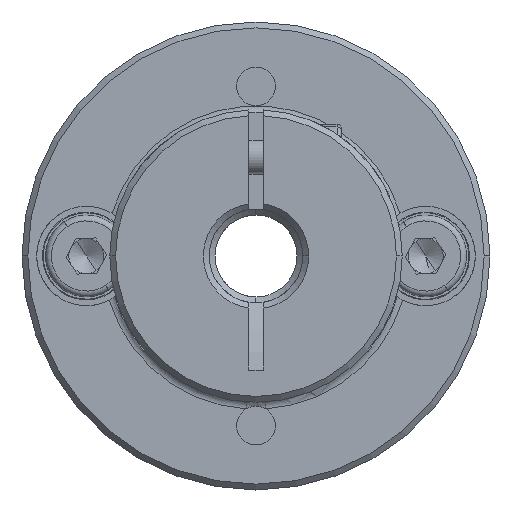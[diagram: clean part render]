
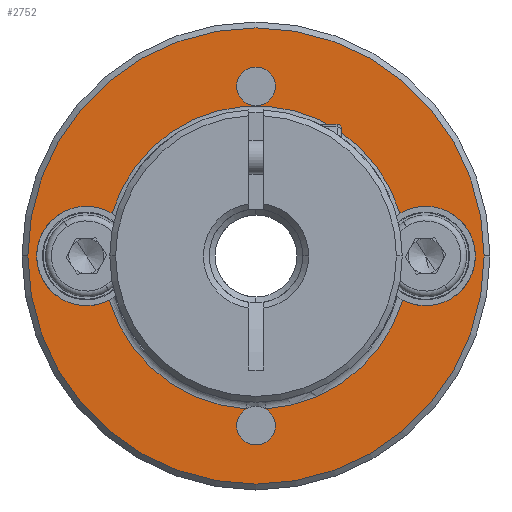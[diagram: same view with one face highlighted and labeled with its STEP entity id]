
A CAD part, front view. The second image highlights one B-rep face of the part: STEP entity #2752.
In plain terms, the highlighted planar face has unit normal (0, -1, 0).
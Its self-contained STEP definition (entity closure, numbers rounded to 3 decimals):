
#238 = VERTEX_POINT ( 'NONE', #2771 ) ;
#265 = ORIENTED_EDGE ( 'NONE', *, *, #12442, .T. ) ;
#481 = DIRECTION ( 'NONE',  ( 1., 0., 0. ) ) ;
#505 = AXIS2_PLACEMENT_3D ( 'NONE', #8835, #2955, #3036 ) ;
#579 = CARTESIAN_POINT ( 'NONE',  ( -12.005, -13.63, 40. ) ) ;
#703 = CIRCLE ( 'NONE', #5637, 13.1 ) ;
#793 = DIRECTION ( 'NONE',  ( 0., -1., 0. ) ) ;
#816 = VERTEX_POINT ( 'NONE', #5101 ) ;
#856 = EDGE_CURVE ( 'NONE', #876, #8610, #8306, .T. ) ;
#876 = VERTEX_POINT ( 'NONE', #3220 ) ;
#923 = DIRECTION ( 'NONE',  ( 0., 1., 0. ) ) ;
#985 = CIRCLE ( 'NONE', #4708, 4.25 ) ;
#1025 = ORIENTED_EDGE ( 'NONE', *, *, #9247, .T. ) ;
#1393 = CARTESIAN_POINT ( 'NONE',  ( -12.005, -13.63, 25.5 ) ) ;
#1468 = ORIENTED_EDGE ( 'NONE', *, *, #3941, .T. ) ;
#1499 = ORIENTED_EDGE ( 'NONE', *, *, #2692, .T. ) ;
#1505 = DIRECTION ( 'NONE',  ( 1., 0., 0. ) ) ;
#1508 = DIRECTION ( 'NONE',  ( 1., 0., 0. ) ) ;
#1638 = CARTESIAN_POINT ( 'NONE',  ( -12.005, -13.63, 40. ) ) ;
#1679 = EDGE_LOOP ( 'NONE', ( #8481, #2109 ) ) ;
#1762 = CIRCLE ( 'NONE', #505, 4.25 ) ;
#1809 = CIRCLE ( 'NONE', #2858, 1.65 ) ;
#1979 = CIRCLE ( 'NONE', #2631, 12.829 ) ;
#2109 = ORIENTED_EDGE ( 'NONE', *, *, #3615, .T. ) ;
#2121 = ORIENTED_EDGE ( 'NONE', *, *, #4082, .T. ) ;
#2200 = VERTEX_POINT ( 'NONE', #6599 ) ;
#2363 = DIRECTION ( 'NONE',  ( 1., 0., 0. ) ) ;
#2400 = CARTESIAN_POINT ( 'NONE',  ( -12.005, -13.63, 40. ) ) ;
#2461 = DIRECTION ( 'NONE',  ( 1., 0., 0. ) ) ;
#2597 = DIRECTION ( 'NONE',  ( 1., 0., 0. ) ) ;
#2631 = AXIS2_PLACEMENT_3D ( 'NONE', #2400, #9152, #2363 ) ;
#2672 = CARTESIAN_POINT ( 'NONE',  ( -12.005, -13.63, 40. ) ) ;
#2692 = EDGE_CURVE ( 'NONE', #11700, #10376, #3026, .T. ) ;
#2710 = AXIS2_PLACEMENT_3D ( 'NONE', #7407, #3282, #10276 ) ;
#2719 = VERTEX_POINT ( 'NONE', #12407 ) ;
#2752 = ADVANCED_FACE ( 'NONE', ( #8414, #3171, #2873 ), #7517, .T. ) ;
#2771 = CARTESIAN_POINT ( 'NONE',  ( -12.834, -13.63, 26.926 ) ) ;
#2858 = AXIS2_PLACEMENT_3D ( 'NONE', #6650, #12594, #2597 ) ;
#2873 = FACE_BOUND ( 'NONE', #1679, .T. ) ;
#2950 = DIRECTION ( 'NONE',  ( 1., 0., 0. ) ) ;
#2955 = DIRECTION ( 'NONE',  ( 0., 1., 0. ) ) ;
#3026 = CIRCLE ( 'NONE', #5541, 19.5 ) ;
#3036 = DIRECTION ( 'NONE',  ( 1., 0., 0. ) ) ;
#3100 = ORIENTED_EDGE ( 'NONE', *, *, #4988, .T. ) ;
#3171 = FACE_BOUND ( 'NONE', #7349, .T. ) ;
#3220 = CARTESIAN_POINT ( 'NONE',  ( -30.755, -13.63, 40. ) ) ;
#3253 = DIRECTION ( 'NONE',  ( 1., 0., 0. ) ) ;
#3282 = DIRECTION ( 'NONE',  ( 0., 1., 0. ) ) ;
#3550 = AXIS2_PLACEMENT_3D ( 'NONE', #5915, #5818, #10790 ) ;
#3615 = EDGE_CURVE ( 'NONE', #11668, #12014, #10865, .T. ) ;
#3876 = CARTESIAN_POINT ( 'NONE',  ( -13.655, -13.63, 54.5 ) ) ;
#3941 = EDGE_CURVE ( 'NONE', #238, #12657, #4542, .T. ) ;
#3988 = EDGE_CURVE ( 'NONE', #11701, #6217, #985, .T. ) ;
#4082 = EDGE_CURVE ( 'NONE', #2719, #6533, #703, .T. ) ;
#4104 = AXIS2_PLACEMENT_3D ( 'NONE', #12522, #7822, #2950 ) ;
#4319 = CARTESIAN_POINT ( 'NONE',  ( 2.495, -13.63, 40. ) ) ;
#4542 = CIRCLE ( 'NONE', #2710, 13.1 ) ;
#4598 = ORIENTED_EDGE ( 'NONE', *, *, #3988, .T. ) ;
#4708 = AXIS2_PLACEMENT_3D ( 'NONE', #4319, #10321, #2461 ) ;
#4988 = EDGE_CURVE ( 'NONE', #6217, #2719, #5148, .T. ) ;
#5019 = CARTESIAN_POINT ( 'NONE',  ( -24.55, -13.63, 36.226 ) ) ;
#5101 = CARTESIAN_POINT ( 'NONE',  ( -10.355, -13.63, 25.5 ) ) ;
#5127 = CARTESIAN_POINT ( 'NONE',  ( -11.175, -13.63, 26.926 ) ) ;
#5148 = CIRCLE ( 'NONE', #7933, 4.25 ) ;
#5541 = AXIS2_PLACEMENT_3D ( 'NONE', #2672, #8483, #12549 ) ;
#5563 = ORIENTED_EDGE ( 'NONE', *, *, #856, .T. ) ;
#5637 = AXIS2_PLACEMENT_3D ( 'NONE', #1638, #5675, #1505 ) ;
#5675 = DIRECTION ( 'NONE',  ( 0., 1., 0. ) ) ;
#5818 = DIRECTION ( 'NONE',  ( 0., 1., 0. ) ) ;
#5915 = CARTESIAN_POINT ( 'NONE',  ( -12.005, -13.63, 25.5 ) ) ;
#5953 = CARTESIAN_POINT ( 'NONE',  ( 0.298, -13.63, 43.638 ) ) ;
#6005 = ORIENTED_EDGE ( 'NONE', *, *, #7409, .T. ) ;
#6018 = CARTESIAN_POINT ( 'NONE',  ( -26.505, -13.63, 40. ) ) ;
#6217 = VERTEX_POINT ( 'NONE', #12446 ) ;
#6425 = DIRECTION ( 'NONE',  ( 0., 1., 0. ) ) ;
#6533 = VERTEX_POINT ( 'NONE', #5127 ) ;
#6599 = CARTESIAN_POINT ( 'NONE',  ( -13.655, -13.63, 25.5 ) ) ;
#6625 = AXIS2_PLACEMENT_3D ( 'NONE', #579, #793, #12660 ) ;
#6650 = CARTESIAN_POINT ( 'NONE',  ( -12.005, -13.63, 54.5 ) ) ;
#6985 = EDGE_LOOP ( 'NONE', ( #1499, #11882 ) ) ;
#7009 = DIRECTION ( 'NONE',  ( 0., 1., 0. ) ) ;
#7349 = EDGE_LOOP ( 'NONE', ( #1025, #5563, #10819, #4598, #3100, #2121, #6005, #10271, #265, #1468 ) ) ;
#7407 = CARTESIAN_POINT ( 'NONE',  ( -12.005, -13.63, 40. ) ) ;
#7409 = EDGE_CURVE ( 'NONE', #6533, #816, #11724, .T. ) ;
#7517 = PLANE ( 'NONE',  #6625 ) ;
#7584 = DIRECTION ( 'NONE',  ( 1., 0., 0. ) ) ;
#7760 = AXIS2_PLACEMENT_3D ( 'NONE', #1393, #12262, #481 ) ;
#7822 = DIRECTION ( 'NONE',  ( 0., -1., 0. ) ) ;
#7933 = AXIS2_PLACEMENT_3D ( 'NONE', #11102, #12170, #3253 ) ;
#7962 = CIRCLE ( 'NONE', #4104, 19.5 ) ;
#7963 = DIRECTION ( 'NONE',  ( 1., 0., 0. ) ) ;
#8188 = EDGE_CURVE ( 'NONE', #8610, #11701, #1979, .T. ) ;
#8306 = CIRCLE ( 'NONE', #8442, 4.25 ) ;
#8414 = FACE_OUTER_BOUND ( 'NONE', #6985, .T. ) ;
#8442 = AXIS2_PLACEMENT_3D ( 'NONE', #6018, #7009, #7963 ) ;
#8481 = ORIENTED_EDGE ( 'NONE', *, *, #10883, .T. ) ;
#8483 = DIRECTION ( 'NONE',  ( 0., -1., 0. ) ) ;
#8567 = CARTESIAN_POINT ( 'NONE',  ( -12.005, -13.63, 25.5 ) ) ;
#8610 = VERTEX_POINT ( 'NONE', #9451 ) ;
#8704 = CIRCLE ( 'NONE', #10715, 1.65 ) ;
#8835 = CARTESIAN_POINT ( 'NONE',  ( -26.505, -13.63, 40. ) ) ;
#9152 = DIRECTION ( 'NONE',  ( 0., 1., 0. ) ) ;
#9247 = EDGE_CURVE ( 'NONE', #12657, #876, #1762, .T. ) ;
#9451 = CARTESIAN_POINT ( 'NONE',  ( -24.307, -13.63, 43.638 ) ) ;
#9740 = AXIS2_PLACEMENT_3D ( 'NONE', #10154, #6425, #1508 ) ;
#10154 = CARTESIAN_POINT ( 'NONE',  ( -12.005, -13.63, 54.5 ) ) ;
#10271 = ORIENTED_EDGE ( 'NONE', *, *, #11607, .T. ) ;
#10276 = DIRECTION ( 'NONE',  ( 1., 0., 0. ) ) ;
#10321 = DIRECTION ( 'NONE',  ( 0., 1., 0. ) ) ;
#10376 = VERTEX_POINT ( 'NONE', #11729 ) ;
#10715 = AXIS2_PLACEMENT_3D ( 'NONE', #8567, #923, #7584 ) ;
#10788 = CARTESIAN_POINT ( 'NONE',  ( -31.505, -13.63, 40. ) ) ;
#10790 = DIRECTION ( 'NONE',  ( 1., 0., 0. ) ) ;
#10819 = ORIENTED_EDGE ( 'NONE', *, *, #8188, .T. ) ;
#10865 = CIRCLE ( 'NONE', #9740, 1.65 ) ;
#10883 = EDGE_CURVE ( 'NONE', #12014, #11668, #1809, .T. ) ;
#11102 = CARTESIAN_POINT ( 'NONE',  ( 2.495, -13.63, 40. ) ) ;
#11426 = CIRCLE ( 'NONE', #7760, 1.65 ) ;
#11607 = EDGE_CURVE ( 'NONE', #816, #2200, #8704, .T. ) ;
#11650 = EDGE_CURVE ( 'NONE', #10376, #11700, #7962, .T. ) ;
#11668 = VERTEX_POINT ( 'NONE', #11810 ) ;
#11700 = VERTEX_POINT ( 'NONE', #10788 ) ;
#11701 = VERTEX_POINT ( 'NONE', #5953 ) ;
#11724 = CIRCLE ( 'NONE', #3550, 1.65 ) ;
#11729 = CARTESIAN_POINT ( 'NONE',  ( 7.495, -13.63, 40. ) ) ;
#11810 = CARTESIAN_POINT ( 'NONE',  ( -10.355, -13.63, 54.5 ) ) ;
#11882 = ORIENTED_EDGE ( 'NONE', *, *, #11650, .T. ) ;
#12014 = VERTEX_POINT ( 'NONE', #3876 ) ;
#12170 = DIRECTION ( 'NONE',  ( 0., 1., 0. ) ) ;
#12262 = DIRECTION ( 'NONE',  ( 0., 1., 0. ) ) ;
#12407 = CARTESIAN_POINT ( 'NONE',  ( 0.54, -13.63, 36.226 ) ) ;
#12442 = EDGE_CURVE ( 'NONE', #2200, #238, #11426, .T. ) ;
#12446 = CARTESIAN_POINT ( 'NONE',  ( 6.745, -13.63, 40. ) ) ;
#12522 = CARTESIAN_POINT ( 'NONE',  ( -12.005, -13.63, 40. ) ) ;
#12549 = DIRECTION ( 'NONE',  ( 1., 0., 0. ) ) ;
#12594 = DIRECTION ( 'NONE',  ( 0., 1., 0. ) ) ;
#12657 = VERTEX_POINT ( 'NONE', #5019 ) ;
#12660 = DIRECTION ( 'NONE',  ( 1., 0., 0. ) ) ;
